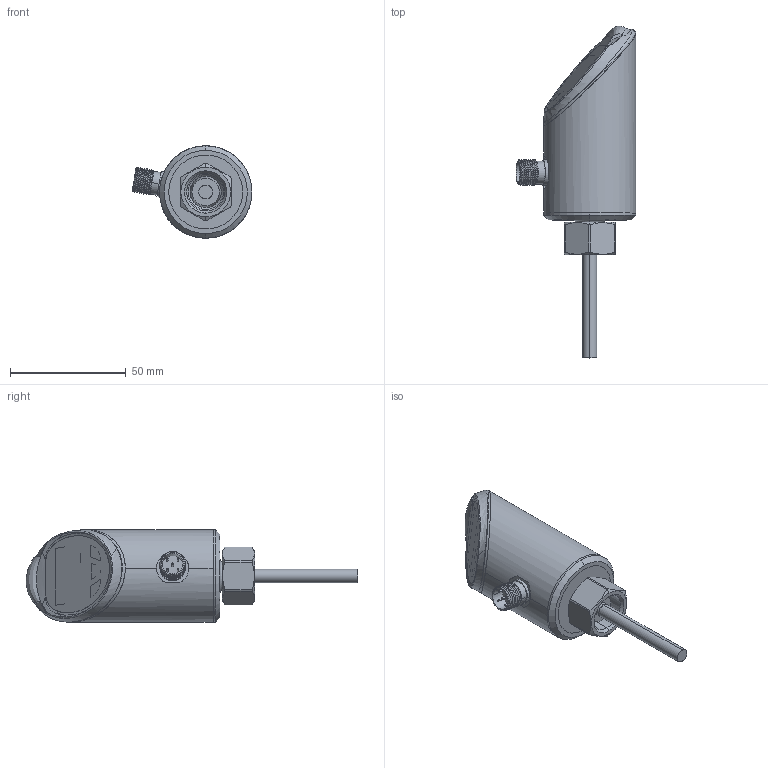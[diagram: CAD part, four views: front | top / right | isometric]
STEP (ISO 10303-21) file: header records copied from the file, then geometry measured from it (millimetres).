
FILE_DESCRIPTION (( 'STEP AP214' ), '1' );
FILE_NAME ('BTD3X81.STEP', '2026-02-25T05:48:49', ( '' ), ( '' ), 'SwSTEP 2.0', 'SolidWorks 2025', '' );
FILE_SCHEMA (( 'AUTOMOTIVE_DESIGN' ));
Length unit declared in the file: millimetre
Products named in the file (5): 1111; BTD3X81; ________; PXW______; ____________PXW________
Assembly tree (4 placements, depth 2):
  BTD3X81
    ____________PXW________
    ________
    PXW______
    1111
Bounding box: 51.89 x 143.73 x 40 mm (x, y, z)
Volume: 79290.7 mm3; surface area: 33626.7 mm2
Topology: 7 solids, 8 shells, 238 faces, 544 edges, 353 vertices
Faces by surface type: cylinder 97, plane 74, bspline 44, cone 18, torus 4, sphere 1
Entity records: 16837 total; most frequent: CARTESIAN_POINT 11642, ORIENTED_EDGE 1088, DIRECTION 928, EDGE_CURVE 544, AXIS2_PLACEMENT_3D 373, VERTEX_POINT 353, EDGE_LOOP 275, ADVANCED_FACE 238
